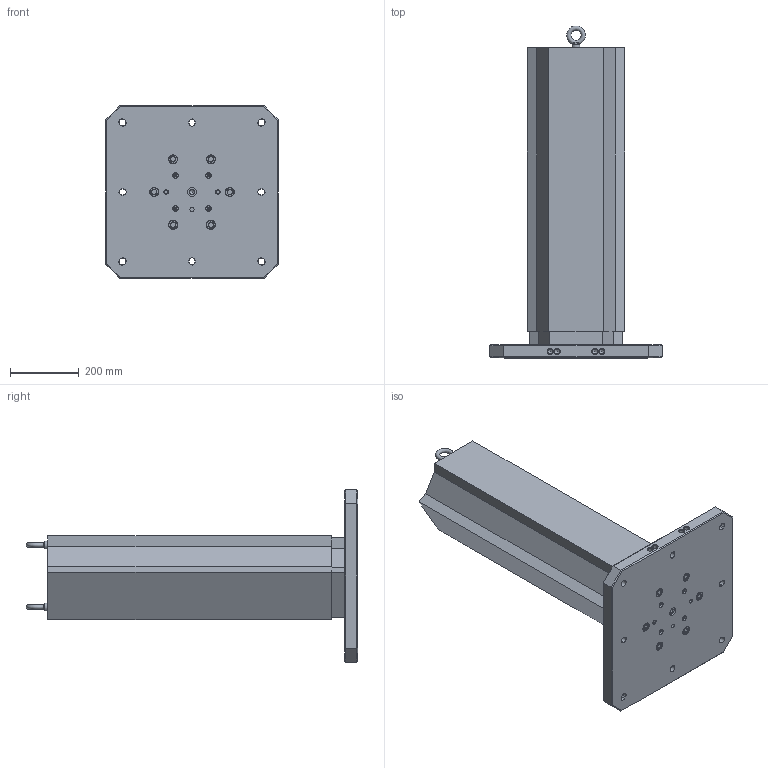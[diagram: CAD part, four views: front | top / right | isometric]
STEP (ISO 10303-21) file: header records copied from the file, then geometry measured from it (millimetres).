
FILE_DESCRIPTION (( 'STEP AP214' ), '1' );
FILE_NAME ('MTA-5003U-900_WEBSITE.step', '2025-08-11T12:55:09', ( '' ), ( '' ), 'SwSTEP 2.0', 'SolidWorks 2024', '' );
FILE_SCHEMA (( 'AUTOMOTIVE_DESIGN' ));
Length unit declared in the file: millimetre
Products named in the file (7): HW.76452_dev_WEBSITE_91290A835; M12X24MM.EB (McM 3040T15)_WEBSITE_3040T15; RL96-14TC_WEBSITE; HW.76172_WEBSITE; RL96-5003BUA_WEBSITE; MT-3862A_WEBSITE_MACHINABLE TOWER; MTA-5003U-900_WEBSITE
Assembly tree (15 placements, depth 2):
  MTA-5003U-900_WEBSITE
    RL96-5003BUA_WEBSITE
    MT-3862A_WEBSITE_MACHINABLE TOWER
    RL96-14TC_WEBSITE
    HW.76172_WEBSITE  x4
    M12X24MM.EB (McM 3040T15)_WEBSITE_3040T15  x2
    HW.76452_dev_WEBSITE_91290A835  x6
Bounding box: 500 x 962.82 x 500 mm (x, y, z)
Volume: 36453165.5 mm3; surface area: 1929258.1 mm2
Topology: 15 solids, 15 shells, 548 faces, 1203 edges, 739 vertices
Faces by surface type: plane 284, cylinder 145, cone 117, torus 2
Full cylindrical faces by diameter (mm): 5 x4, 6 x4, 6.6 x4, 8.5 x4, 10 x4, 10.025 x4, 10.2 x4, 11 x4, 12 x3, 14 x12, 16 x6, 16.02 x4, 17.5 x12, 23 x2, 24 x6, 25.025 x1, 26 x6, 139.7 x1
Entity records: 11490 total; most frequent: CARTESIAN_POINT 1944, DIRECTION 1848, ORIENTED_EDGE 1522, EDGE_CURVE 761, AXIS2_PLACEMENT_3D 701, EDGE_LOOP 594, VERTEX_POINT 547, FACE_OUTER_BOUND 454
